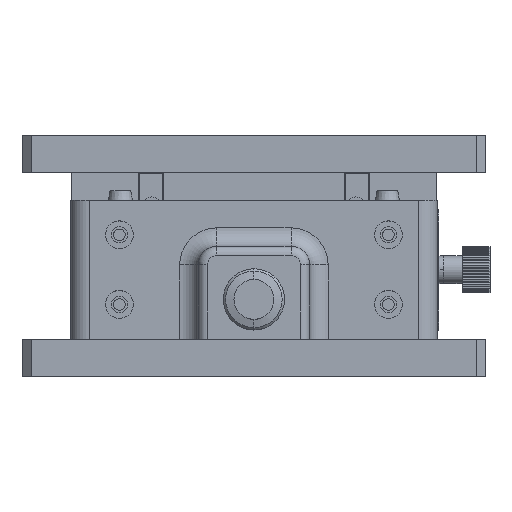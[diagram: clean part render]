
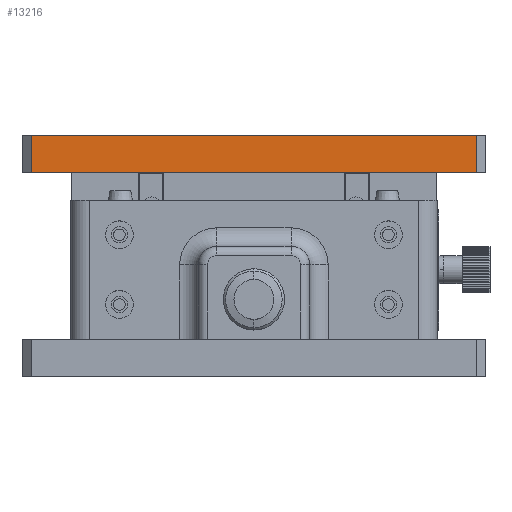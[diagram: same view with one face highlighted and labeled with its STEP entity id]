
A CAD part, top view. The second image highlights one B-rep face of the part: STEP entity #13216.
In plain terms, the highlighted planar face has unit normal (0, 0, 1).
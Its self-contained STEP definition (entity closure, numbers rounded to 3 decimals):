
#13 = DIRECTION ( 'NONE',  ( 0., 1., 0. ) ) ;
#614 = VERTEX_POINT ( 'NONE', #15676 ) ;
#766 = LINE ( 'NONE', #7693, #6233 ) ;
#1288 = CARTESIAN_POINT ( 'NONE',  ( -50., 4., 50. ) ) ;
#1928 = CARTESIAN_POINT ( 'NONE',  ( -50., -4., 50. ) ) ;
#3857 = DIRECTION ( 'NONE',  ( 1., 0., 0. ) ) ;
#5590 = DIRECTION ( 'NONE',  ( 0., -1., 0. ) ) ;
#5812 = PLANE ( 'NONE',  #8385 ) ;
#6233 = VECTOR ( 'NONE', #13, 1000. ) ;
#6507 = EDGE_CURVE ( 'NONE', #15637, #20582, #12254, .T. ) ;
#6647 = ORIENTED_EDGE ( 'NONE', *, *, #14135, .T. ) ;
#7332 = ORIENTED_EDGE ( 'NONE', *, *, #24301, .T. ) ;
#7693 = CARTESIAN_POINT ( 'NONE',  ( 48., 4., 50. ) ) ;
#7827 = LINE ( 'NONE', #1288, #12734 ) ;
#8385 = AXIS2_PLACEMENT_3D ( 'NONE', #19445, #20039, #14091 ) ;
#10175 = FACE_OUTER_BOUND ( 'NONE', #18933, .T. ) ;
#11320 = VECTOR ( 'NONE', #5590, 1000. ) ;
#11663 = EDGE_CURVE ( 'NONE', #614, #15637, #7827, .T. ) ;
#12254 = LINE ( 'NONE', #23482, #11320 ) ;
#12734 = VECTOR ( 'NONE', #16767, 1000. ) ;
#12793 = ORIENTED_EDGE ( 'NONE', *, *, #6507, .T. ) ;
#12919 = VECTOR ( 'NONE', #3857, 1000. ) ;
#13216 = ADVANCED_FACE ( 'NONE', ( #10175 ), #5812, .T. ) ;
#13290 = CARTESIAN_POINT ( 'NONE',  ( 48., -4., 50. ) ) ;
#14091 = DIRECTION ( 'NONE',  ( 1., 0., 0. ) ) ;
#14135 = EDGE_CURVE ( 'NONE', #20508, #614, #766, .T. ) ;
#15637 = VERTEX_POINT ( 'NONE', #15673 ) ;
#15673 = CARTESIAN_POINT ( 'NONE',  ( -48., 4., 50. ) ) ;
#15676 = CARTESIAN_POINT ( 'NONE',  ( 48., 4., 50. ) ) ;
#16767 = DIRECTION ( 'NONE',  ( -1., 0., 0. ) ) ;
#18933 = EDGE_LOOP ( 'NONE', ( #7332, #6647, #19071, #12793 ) ) ;
#19071 = ORIENTED_EDGE ( 'NONE', *, *, #11663, .T. ) ;
#19445 = CARTESIAN_POINT ( 'NONE',  ( 0., 0., 50. ) ) ;
#20039 = DIRECTION ( 'NONE',  ( 0., 0., 1. ) ) ;
#20508 = VERTEX_POINT ( 'NONE', #13290 ) ;
#20582 = VERTEX_POINT ( 'NONE', #24173 ) ;
#21823 = LINE ( 'NONE', #1928, #12919 ) ;
#23482 = CARTESIAN_POINT ( 'NONE',  ( -48., -4., 50. ) ) ;
#24173 = CARTESIAN_POINT ( 'NONE',  ( -48., -4., 50. ) ) ;
#24301 = EDGE_CURVE ( 'NONE', #20582, #20508, #21823, .T. ) ;
